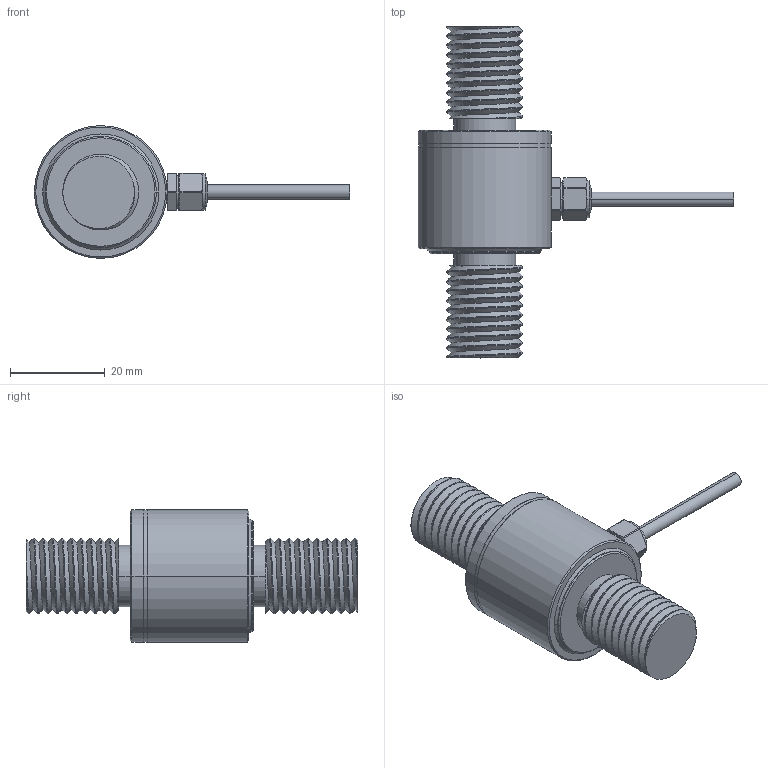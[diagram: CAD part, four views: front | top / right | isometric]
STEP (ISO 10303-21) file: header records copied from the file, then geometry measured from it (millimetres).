
FILE_DESCRIPTION (( 'STEP AP203' ), '1' );
FILE_NAME ('LCR10-30kN.STEP', '2024-08-24T07:54:47', ( '' ), ( '' ), 'SwSTEP 2.0', 'SolidWorks 2019', '' );
FILE_SCHEMA (( 'CONFIG_CONTROL_DESIGN' ));
Length unit declared in the file: millimetre
Products named in the file (1): LCR10-30kN
Bounding box: 66.5 x 70 x 28 mm (x, y, z)
Volume: 24213.3 mm3; surface area: 7033.3 mm2
Topology: 1 solids, 1 shells, 129 faces, 326 edges, 209 vertices
Faces by surface type: cylinder 72, plane 29, torus 14, cone 10, bspline 4
Entity records: 7426 total; most frequent: CARTESIAN_POINT 4526, ORIENTED_EDGE 652, DIRECTION 537, EDGE_CURVE 326, AXIS2_PLACEMENT_3D 216, VERTEX_POINT 209, EDGE_LOOP 139, FACE_OUTER_BOUND 129
